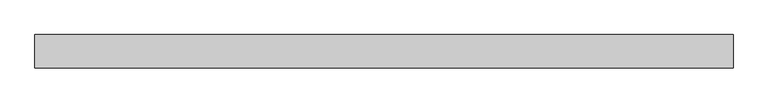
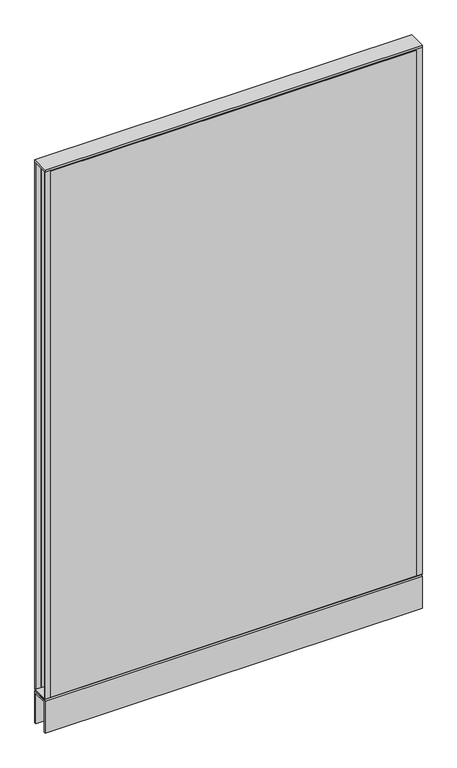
"""IFC4 building model written with IfcOpenShell, lengths in millimetres: furniture geometry, Steelcase - Kick Solutions - Panel - Monolithic - Tackable Acoustical : 66H x 42W."""

from ifc_helpers import new_model, si_unit, frame, origin, place, context, project, spatial, polyline, outline, extrude, source, transform, mapped, element, save


def furniture_3b446d4d(model_context):
    return source(origin(), model_context, "Body", "SweptSolid", [
        extrude(outline(polyline([(0.0, 101.7169049), (-3.1750015, 101.7169049), (-3.1750015, 1676.5169018), (0.0, 1673.4357466), (0.0, 101.7169049)])), frame((15.8749996, 0.0, 0.0), z_axis=(1.0, 0.0, 0.0), x_axis=(0.0, 1.0, 0.0)), (0.0, 0.0, 1.0), 1035.0500008),
        extrude(outline(polyline([(-50.8000015, 101.7169049), (-50.8000015, 1673.4357466), (-47.625, 1676.5169018), (-47.625, 101.7169049), (-50.8000015, 101.7169049)])), frame((15.8749996, 0.0, 0.0), z_axis=(1.0, 0.0, 0.0), x_axis=(0.0, 1.0, 0.0)), (0.0, 0.0, 1.0), 1035.0500008),
        extrude(outline(polyline([(1066.8, -3.1750015), (1050.9250004, -3.1750015), (1050.9250004, 0.0), (1066.8, 0.0), (1066.8, -3.1750015)])), frame((0.0, 0.0, 101.7169049), z_axis=(0.0, 0.0, 1.0), x_axis=(1.0, 0.0, 0.0)), (0.0, 0.0, 1.0), 1574.799997),
        extrude(outline(polyline([(15.8749996, -50.8000015), (0.0, -50.8000015), (0.0, -47.625), (15.8749996, -47.625), (15.8749996, -50.8000015)])), frame((0.0, 0.0, 101.7169049), z_axis=(0.0, 0.0, 1.0), x_axis=(1.0, 0.0, 0.0)), (0.0, 0.0, 1.0), 1574.799997),
        extrude(outline(polyline([(-50.7995075, 101.7169049), (-0.000494, 101.7169049), (-3.0583512, 98.5421458), (-47.7416503, 98.5421458), (-50.7995075, 101.7169049)])), frame((0.0, 0.0, 0.0), z_axis=(1.0, 0.0, 0.0), x_axis=(0.0, 1.0, 0.0)), (0.0, 0.0, 1.0), 1066.8),
        extrude(outline(polyline([(1066.8, 0.0), (1066.8, -50.8000015), (0.0, -50.8000015), (0.0, 0.0), (1066.8, 0.0)])), frame((0.0, 0.0, 1676.5169018), z_axis=(0.0, 0.0, 1.0), x_axis=(1.0, 0.0, 0.0)), (0.0, 0.0, 1.0), 6.35),
        extrude(outline(polyline([(15.8749996, -3.1750015), (0.0, -3.1750015), (0.0, 0.0), (15.8749996, 0.0), (15.8749996, -3.1750015)])), frame((0.0, 0.0, 101.7169049), z_axis=(0.0, 0.0, 1.0), x_axis=(1.0, 0.0, 0.0)), (0.0, 0.0, 1.0), 1574.799997),
        extrude(outline(polyline([(1066.8, -50.8000015), (1050.9250004, -50.8000015), (1050.9250004, -47.625), (1066.8, -47.625), (1066.8, -50.8000015)])), frame((0.0, 0.0, 101.7169049), z_axis=(0.0, 0.0, 1.0), x_axis=(1.0, 0.0, 0.0)), (0.0, 0.0, 1.0), 1574.799997),
        extrude(outline(polyline([(-50.8000015, 95.3668927), (-47.6247484, 98.5421458), (-3.1752531, 98.5421458), (0.0, 95.3668927), (-50.8000015, 95.3668927)])), frame((0.0, 0.0, 0.0), z_axis=(1.0, 0.0, 0.0), x_axis=(0.0, 1.0, 0.0)), (0.0, 0.0, 1.0), 1066.8),
        extrude(outline(polyline([(0.0, 0.0), (-5.08, 0.0), (-5.08, 90.2869018), (-45.7200015, 90.2869018), (-45.7200015, 0.0), (-50.8000015, 0.0), (-50.8000015, 95.3669018), (0.0, 95.3669018), (0.0, 0.0)])), frame((0.0, 0.0, 0.0), z_axis=(1.0, 0.0, 0.0), x_axis=(0.0, 1.0, 0.0)), (0.0, 0.0, 1.0), 1066.8),
    ])


if __name__ == "__main__":
    model = new_model("IFC4")
    model_context = context("Model", 3, world=origin())
    ifc_project = project(units=[si_unit("LENGTHUNIT", "METRE", prefix="MILLI")], contexts=[model_context])
    site = spatial("IfcSite", under=ifc_project)
    building = spatial("IfcBuilding", under=site)
    placement = place(None, origin())
    furniture_shape = furniture_3b446d4d(model_context)
    element("IfcFurniture", 1, ObjectType="Steelcase - Kick Solutions - Panel - Monolithic - Tackable Acoustical : 66H x 42W", at=placement, inside=building, context=model_context, shape_type="MappedRepresentation", body=[
        mapped(furniture_shape, transform((0.0, 0.0, 0.0), x_axis=(1.0, 0.0, 0.0), y_axis=(0.0, 1.0, 0.0), z_axis=(0.0, 0.0, 1.0))),
    ])
    save(model, "model.ifc")
